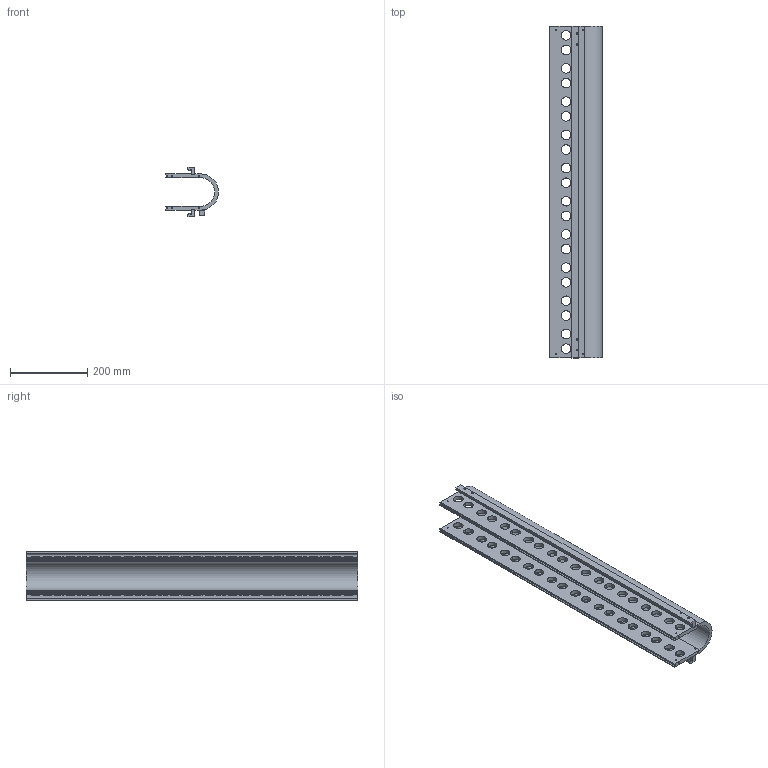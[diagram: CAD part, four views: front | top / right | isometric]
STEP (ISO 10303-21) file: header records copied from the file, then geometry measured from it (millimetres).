
FILE_DESCRIPTION(('CATIA V5-6R2013 STEP','CAx-IF Rec.Pracs.--- Model Styling and Organization---1.4--- 2014-01-23','CAx-IF Rec.Pracs.--- Geometric and Assembly Validation Properties ---4.2---2014-10-09'),'2;1');
FILE_NAME('C:\Users\lojorat\cernbox\CNAO ESE2\STEP files\STEP released\CRNZSE2_0009 ESE2 Setpum welding sub-assembly - RELEASED 21.07.21.stp','2021-07-21T12:42:39+00:00',('none'),('CERN'),'CATIA Version 5-6 Release 2017 SP6 HF16','CATIA V5 STEP AP214','none');
FILE_SCHEMA(('AUTOMOTIVE_DESIGN { 1 0 10303 214 1 1 1 1 }'));
Length unit declared in the file: millimetre
Products named in the file (5): ST1360992_01; ST1360959_01; ST1360982_01; ST1367805_01; ST1436745_01
Assembly tree (5 placements, depth 2):
  ST1360992_01
    ST1360959_01
    ST1360982_01  x2
    ST1367805_01
    ST1436745_01
Bounding box: 137 x 860 x 129 mm (x, y, z)
Volume: 2802713.9 mm3; surface area: 709542.7 mm2
Topology: 5 solids, 5 shells, 641 faces, 1902 edges, 1262 vertices
Faces by surface type: plane 451, cylinder 156, cone 34
Entity records: 14546 total; most frequent: CARTESIAN_POINT 3054, ORIENTED_EDGE 2688, DIRECTION 1672, EDGE_CURVE 1344, VECTOR 960, LINE 960, VERTEX_POINT 890, EDGE_LOOP 574
